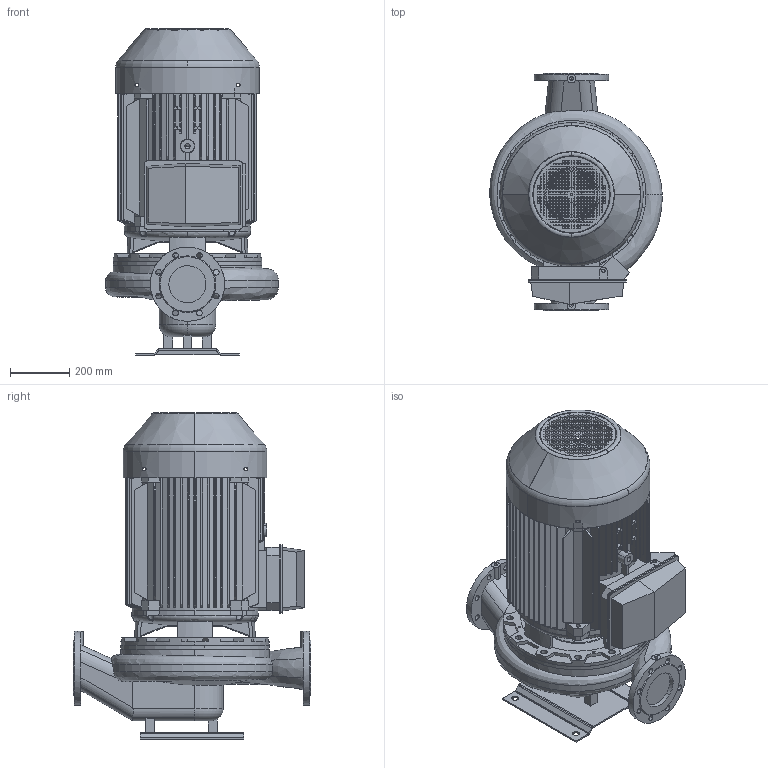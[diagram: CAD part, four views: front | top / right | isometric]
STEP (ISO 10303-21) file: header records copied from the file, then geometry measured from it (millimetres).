
FILE_DESCRIPTION(('STEP AP214'),'1');
FILE_NAME('export.stp','2018-05-29T08:20:40',(' '),(' '),'Spatial InterOp 3D',' ',' ');
FILE_SCHEMA(('AUTOMOTIVE_DESIGN { 1 0 10303 214 1 1 1 1 }'));
Length unit declared in the file: millimetre
Products named in the file (12): W_L125S4550-KP256; V_TLL125SAL1250; V_PPL125S; P100496; P100495; P100342; V_MKP-256-J2-F42; R200373; R200376; R200379; R200380; R200070
Assembly tree (12 placements, depth 3):
  W_L125S4550-KP256
    V_TLL125SAL1250
    V_PPL125S
    P100496
      P100495  x2
      P100342
    V_MKP-256-J2-F42
      R200373
      R200376
      R200379
      R200380
      R200070
Bounding box: 581.47 x 800 x 1101 mm (x, y, z)
Volume: 46117566 mm3; surface area: 6443650.1 mm2
Topology: 9 solids, 10 shells, 2557 faces, 7392 edges, 4901 vertices
Faces by surface type: plane 2000, cylinder 322, cone 150, torus 52, bspline 33
Entity records: 140868 total; most frequent: CARTESIAN_POINT 21908, ORIENTED_EDGE 14699, DIRECTION 12879, STYLED_ITEM 8520, PRESENTATION_STYLE_ASSIGNMENT 8520, COLOUR_RGB 8520, EDGE_CURVE 7366, CURVE_STYLE 5960
